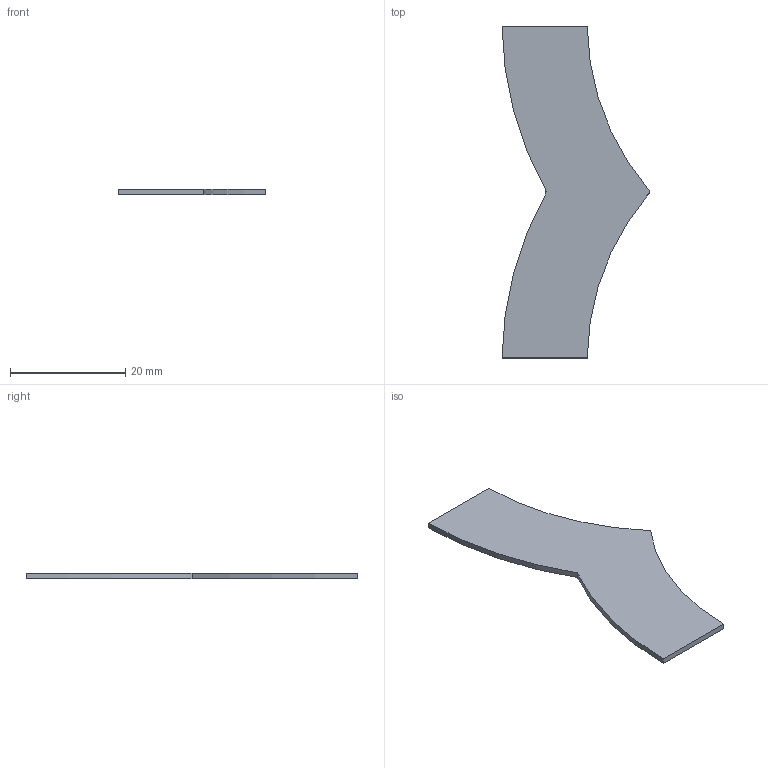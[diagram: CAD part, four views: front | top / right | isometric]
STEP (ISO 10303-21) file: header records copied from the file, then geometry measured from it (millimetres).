
FILE_DESCRIPTION(('FreeCAD Model'),'2;1');
FILE_NAME('Open CASCADE Shape Model','2026-01-12T14:57:24',(''),(''), 'Open CASCADE STEP processor 7.8','FreeCAD','Unknown');
FILE_SCHEMA(('AUTOMOTIVE_DESIGN { 1 0 10303 214 1 1 1 1 }'));
Length unit declared in the file: millimetre
Products named in the file (1): Body001
Bounding box: 25.7 x 57.69 x 1 mm (x, y, z)
Volume: 908.9 mm3; surface area: 1970.6 mm2
Topology: 1 solids, 1 shells, 8 faces, 18 edges, 12 vertices
Faces by surface type: cylinder 4, plane 4
Entity records: 252 total; most frequent: DIRECTION 44, CARTESIAN_POINT 39, ORIENTED_EDGE 36, EDGE_CURVE 18, AXIS2_PLACEMENT_3D 17, VERTEX_POINT 12, LINE 10, VECTOR 10
